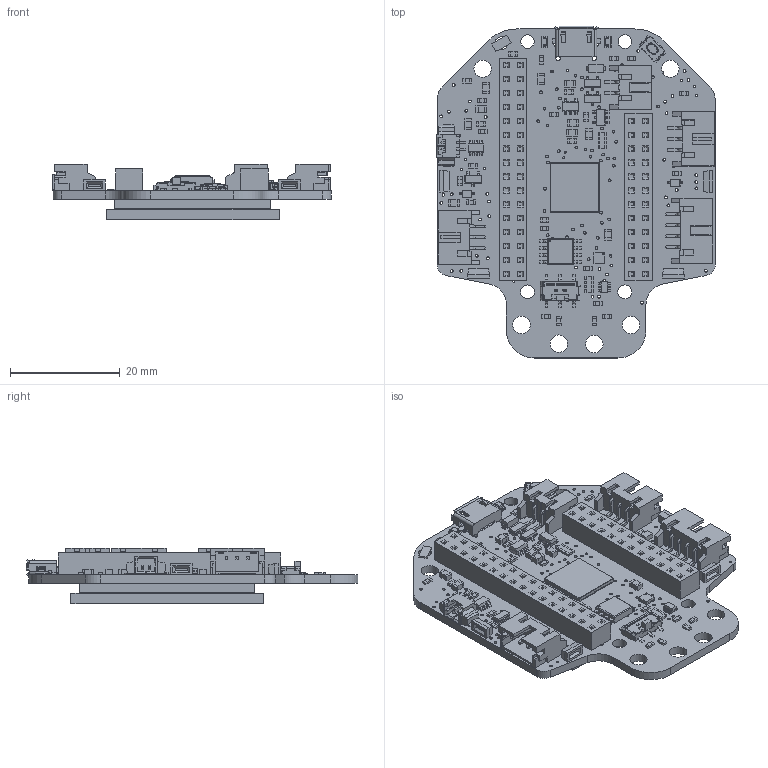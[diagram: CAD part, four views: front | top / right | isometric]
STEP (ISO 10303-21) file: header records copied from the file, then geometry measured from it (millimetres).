
FILE_DESCRIPTION(/* description */ (''),/* implementation_level */ '2;1');
FILE_NAME(/* name */ '/Users/pedroruiz/Dropbox/3D/Products/HalloWing M4/source/4300 Hallowing M4 Express.f3d.step',/* time_stamp */ '2019-10-12T08:38:47-04:00',/* author */ (''),/* organization */ (''),/* preprocessor_version */ 'ST-DEVELOPER v18',/* originating_system */ 'Autodesk Translation Framework v8.6.0.1094',/* authorisation */ '');
FILE_SCHEMA (('AUTOMOTIVE_DESIGN { 1 0 10303 214 3 1 1 }'));
Products named in the file (30): Adafruit Hallowing M4; PCB Component; Board; ALS-PT21; 1M; 10µF; ORANGE; SPST_TACT-EVQQ2; microUSB; MCP73831T-2ACI/OT; JSTPH; WS2812B_4020; BSS138; JST PH 3; MBR0540; DMG3405; 10K; JST PH 4; 3.6V; CON_MOLEX_2P; GD25Q64; ATSAMD51J19; PAM8301; BSS138_1; EG1390; MSA301; DISP_LCD_GENERIC_SPITFT_VDDIO_1.54_240X240_HANDSOLDER; 2x12 short female v1; 2x16 short female v1; foam tape
Assembly tree (71 placements, depth 3):
  Adafruit Hallowing M4
    PCB Component
      Board
      ALS-PT21
      1M  x25
      10µF  x10
      ORANGE  x2
      SPST_TACT-EVQQ2
      microUSB
      MCP73831T-2ACI/OT  x2
      JSTPH
      WS2812B_4020  x4
      BSS138
      JST PH 3  x2
      MBR0540
      DMG3405  x2
      10K  x2
      JST PH 4
      3.6V  x2
      CON_MOLEX_2P
      GD25Q64
      ATSAMD51J19
      PAM8301
      BSS138_1
      EG1390
      MSA301
      DISP_LCD_GENERIC_SPITFT_VDDIO_1.54_240X240_HANDSOLDER
      2x12 short female v1
      2x16 short female v1
      foam tape
Bounding box: 50.86 x 60.63 x 10.07 mm (x, y, z)
Volume: 9688.2 mm3; surface area: 16711.6 mm2
Topology: 133 solids, 133 shells, 4706 faces, 12659 edges, 8156 vertices
Faces by surface type: plane 3931, cylinder 710, sphere 21, bspline 18, torus 18, cone 8
Full cylindrical faces by diameter (mm): 0.2 x1, 0.3 x1, 0.394 x2, 0.5 x155, 0.7 x2, 0.8 x4, 1 x2, 2.4 x1, 2.5 x2, 2.54 x2, 3.175 x2, 3.2 x4
Entity records: 120647 total; most frequent: CARTESIAN_POINT 21935, ORIENTED_EDGE 20214, DIRECTION 19031, EDGE_CURVE 10107, LINE 8727, VECTOR 8727, VERTEX_POINT 6494, AXIS2_PLACEMENT_3D 5152
